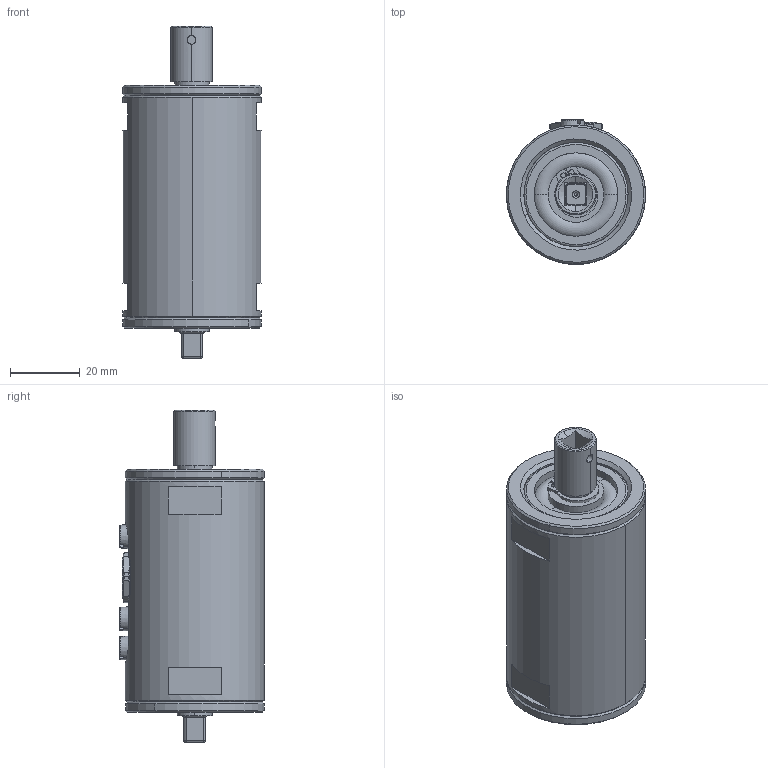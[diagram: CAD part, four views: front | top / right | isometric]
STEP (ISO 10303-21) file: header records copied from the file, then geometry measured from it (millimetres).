
FILE_DESCRIPTION (( 'STEP AP203' ), '1' );
FILE_NAME ('400006-ATS004-2,5Nm-6mm-Vierkant.STEP', '2017-02-20T10:16:06', ( '' ), ( '' ), 'SwSTEP 2.0', 'SolidWorks 2016', '' );
FILE_SCHEMA (( 'CONFIG_CONTROL_DESIGN' ));
Length unit declared in the file: millimetre
Products named in the file (19): DIN 625 - 6200 - 8,SI,NC,8_68_DIN 625 - 6200 - Full,SI,NC,Full_68; DIN 988-22x30x0.5_DIN 988-22x30x0.5; 999999-ATE043_OTS-coilboard_mit Spulen_Standard; Circlip DIN 471 - 10 x 1_Circlip DIN 471 - 10 x 1; 400006-ATE002-PCB12-Board; ISO 1207 - M4 x 5 --- 5S_ISO 1207 - M4 x 5 --- 5S; 400006-ATE009-Binder-712-0416-90-05; 400006-ATM002-Mutter-Binder-Stecker; 999999-ATN087-Tellerfeder-29,7x17,3_Standard; 400006-ATM004_Rohrgehäuse-40mm; 400006-ATS021-PCB12_mit_Stecker_Welle 6mm; 400006-ATE001_Kabel_Welle 6mm; 400006-ATM016_Welle 6mm-Vierkant; 400006-ATS004-2,5Nm-6mm-Vierkant; 400006-ATM017_Elektronikhalter-6mm; ISO 4762 M3 x 5 --- 5S_DIN 912 M3 x 5 --- 5S; 400006-ATM005_Lagerdeckel-10mm; 400006-ATM013-Vierkanthülse-1-4Z; ISO 1207 - M4 x 4 --- 4S_ISO 1207 - M4 x 4 --- 4S
Assembly tree (27 placements, depth 3):
  400006-ATS004-2,5Nm-6mm-Vierkant
    400006-ATM016_Welle 6mm-Vierkant
    400006-ATM017_Elektronikhalter-6mm
    ISO 4762 M3 x 5 --- 5S_DIN 912 M3 x 5 --- 5S  x4
    400006-ATS021-PCB12_mit_Stecker_Welle 6mm
      400006-ATE002-PCB12-Board
      400006-ATE009-Binder-712-0416-90-05
      999999-ATE043_OTS-coilboard_mit Spulen_Standard  x2
      400006-ATE001_Kabel_Welle 6mm  x2
    400006-ATM004_Rohrgehäuse-40mm
    400006-ATM005_Lagerdeckel-10mm  x2
    999999-ATN087-Tellerfeder-29,7x17,3_Standard
    DIN 625 - 6200 - 8,SI,NC,8_68_DIN 625 - 6200 - Full,SI,NC,Full_68  x2
    Circlip DIN 471 - 10 x 1_Circlip DIN 471 - 10 x 1  x2
    ISO 1207 - M4 x 5 --- 5S_ISO 1207 - M4 x 5 --- 5S  x2
    ISO 1207 - M4 x 4 --- 4S_ISO 1207 - M4 x 4 --- 4S
    400006-ATM013-Vierkanthülse-1-4Z
    DIN 988-22x30x0.5_DIN 988-22x30x0.5
    400006-ATM002-Mutter-Binder-Stecker
Bounding box: 40 x 41.6 x 95.5 mm (x, y, z)
Volume: 54063.3 mm3; surface area: 47402.4 mm2
Topology: 30 solids, 30 shells, 1267 faces, 3144 edges, 1976 vertices
Faces by surface type: cylinder 501, plane 378, cone 298, torus 80, bspline 10
Entity records: 28563 total; most frequent: CARTESIAN_POINT 6261, DIRECTION 4404, ORIENTED_EDGE 4060, EDGE_CURVE 2030, AXIS2_PLACEMENT_3D 1760, VERTEX_POINT 1295, EDGE_LOOP 959, CIRCLE 911
